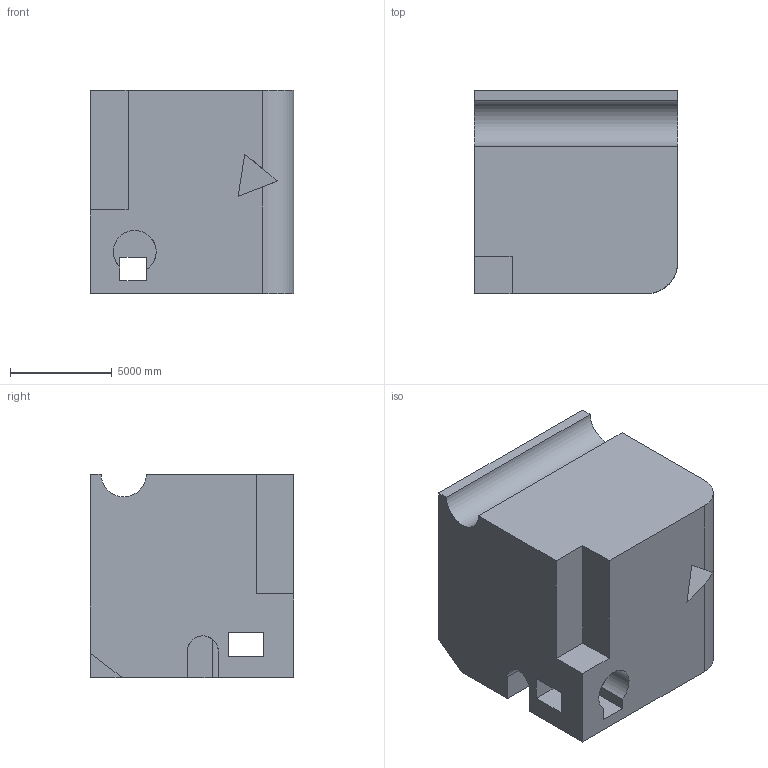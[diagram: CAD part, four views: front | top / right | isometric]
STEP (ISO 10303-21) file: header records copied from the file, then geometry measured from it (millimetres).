
FILE_DESCRIPTION (( 'STEP AP203' ), '1' );
FILE_NAME ('1996.STEP', '2022-08-23T10:24:46', ( 'user' ), ( '' ), 'SwSTEP 2.0', 'SolidWorks 2021', '' );
FILE_SCHEMA (( 'CONFIG_CONTROL_DESIGN' ));
Length unit declared in the file: centimetre
Products named in the file (1): 1996
Bounding box: 10000 x 10000 x 10000 mm (x, y, z)
Volume: 861010476966.1 mm3; surface area: 768875136 mm2
Topology: 1 solids, 1 shells, 54 faces, 177 edges, 118 vertices
Faces by surface type: plane 41, cylinder 13
Entity records: 2491 total; most frequent: CARTESIAN_POINT 823, ORIENTED_EDGE 354, DIRECTION 318, EDGE_CURVE 177, LINE 128, VECTOR 128, VERTEX_POINT 118, AXIS2_PLACEMENT_3D 95
